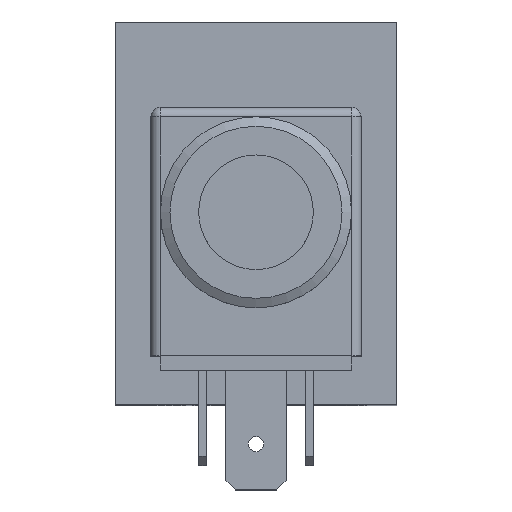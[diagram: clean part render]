
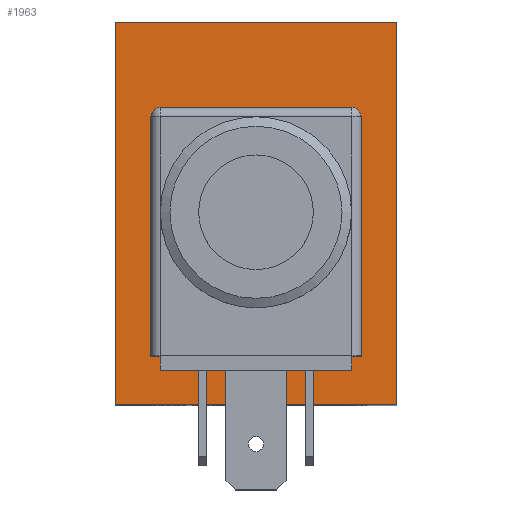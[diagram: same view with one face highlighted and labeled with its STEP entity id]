
A CAD part, top view. The second image highlights one B-rep face of the part: STEP entity #1963.
In plain terms, the highlighted planar face has unit normal (0, 0, 1).
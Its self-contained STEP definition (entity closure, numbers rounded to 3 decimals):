
#71=LINE('',#3049,#226);
#76=LINE('',#3062,#231);
#80=LINE('',#3074,#235);
#84=LINE('',#3086,#239);
#86=LINE('',#3096,#241);
#91=LINE('',#3105,#246);
#95=LINE('',#3113,#250);
#96=LINE('',#3115,#251);
#226=VECTOR('',#2502,15.);
#231=VECTOR('',#2515,15.);
#235=VECTOR('',#2527,15.);
#239=VECTOR('',#2539,15.);
#241=VECTOR('',#2551,40.);
#246=VECTOR('',#2558,29.5);
#250=VECTOR('',#2566,29.5);
#251=VECTOR('',#2569,40.);
#435=FACE_BOUND('',#698,.T.);
#436=FACE_BOUND('',#699,.T.);
#698=EDGE_LOOP('',(#1506,#1507,#1508,#1509,#1510,#1511,#1512,#1513));
#699=EDGE_LOOP('',(#1514,#1515,#1516,#1517));
#823=CIRCLE('',#2137,3.5);
#825=CIRCLE('',#2141,3.5);
#827=CIRCLE('',#2145,3.5);
#829=CIRCLE('',#2149,3.5);
#933=VERTEX_POINT('',#3046);
#934=VERTEX_POINT('',#3048);
#936=VERTEX_POINT('',#3054);
#938=VERTEX_POINT('',#3060);
#940=VERTEX_POINT('',#3066);
#942=VERTEX_POINT('',#3072);
#944=VERTEX_POINT('',#3078);
#946=VERTEX_POINT('',#3084);
#947=VERTEX_POINT('',#3092);
#949=VERTEX_POINT('',#3095);
#951=VERTEX_POINT('',#3101);
#954=VERTEX_POINT('',#3111);
#1124=EDGE_CURVE('',#934,#933,#71,.T.);
#1128=EDGE_CURVE('',#933,#936,#823,.T.);
#1131=EDGE_CURVE('',#936,#938,#76,.T.);
#1134=EDGE_CURVE('',#938,#940,#825,.T.);
#1137=EDGE_CURVE('',#940,#942,#80,.T.);
#1140=EDGE_CURVE('',#942,#944,#827,.T.);
#1143=EDGE_CURVE('',#944,#946,#84,.T.);
#1145=EDGE_CURVE('',#946,#934,#829,.T.);
#1147=EDGE_CURVE('',#949,#947,#86,.T.);
#1152=EDGE_CURVE('',#951,#949,#91,.T.);
#1156=EDGE_CURVE('',#947,#954,#95,.T.);
#1157=EDGE_CURVE('',#954,#951,#96,.T.);
#1506=ORIENTED_EDGE('',*,*,#1124,.T.);
#1507=ORIENTED_EDGE('',*,*,#1128,.T.);
#1508=ORIENTED_EDGE('',*,*,#1131,.T.);
#1509=ORIENTED_EDGE('',*,*,#1134,.T.);
#1510=ORIENTED_EDGE('',*,*,#1137,.T.);
#1511=ORIENTED_EDGE('',*,*,#1140,.T.);
#1512=ORIENTED_EDGE('',*,*,#1143,.T.);
#1513=ORIENTED_EDGE('',*,*,#1145,.T.);
#1514=ORIENTED_EDGE('',*,*,#1157,.T.);
#1515=ORIENTED_EDGE('',*,*,#1152,.T.);
#1516=ORIENTED_EDGE('',*,*,#1147,.T.);
#1517=ORIENTED_EDGE('',*,*,#1156,.T.);
#1780=PLANE('',#2155);
#1963=ADVANCED_FACE('',(#435,#436),#1780,.T.);
#2137=AXIS2_PLACEMENT_3D('',#3056,#2509,#2510);
#2141=AXIS2_PLACEMENT_3D('',#3068,#2521,#2522);
#2145=AXIS2_PLACEMENT_3D('',#3080,#2533,#2534);
#2149=AXIS2_PLACEMENT_3D('',#3089,#2544,#2545);
#2155=AXIS2_PLACEMENT_3D('',#3114,#2567,#2568);
#2502=DIRECTION('',(1.,0.,0.));
#2509=DIRECTION('center_axis',(0.,0.,-1.));
#2510=DIRECTION('ref_axis',(-1.,0.,0.));
#2515=DIRECTION('',(0.,-1.,0.));
#2521=DIRECTION('center_axis',(0.,0.,-1.));
#2522=DIRECTION('ref_axis',(0.,1.,0.));
#2527=DIRECTION('',(-1.,0.,0.));
#2533=DIRECTION('center_axis',(0.,0.,-1.));
#2534=DIRECTION('ref_axis',(1.,0.,0.));
#2539=DIRECTION('',(0.,1.,0.));
#2544=DIRECTION('center_axis',(0.,0.,-1.));
#2545=DIRECTION('ref_axis',(0.,-1.,0.));
#2551=DIRECTION('',(0.,-1.,0.));
#2558=DIRECTION('',(-1.,0.,0.));
#2566=DIRECTION('',(1.,0.,0.));
#2567=DIRECTION('center_axis',(0.,0.,1.));
#2568=DIRECTION('ref_axis',(1.,0.,0.));
#2569=DIRECTION('',(0.,1.,0.));
#3046=CARTESIAN_POINT('',(7.5,11.,50.));
#3048=CARTESIAN_POINT('',(-7.5,11.,50.));
#3049=CARTESIAN_POINT('',(-3.75,11.,50.));
#3054=CARTESIAN_POINT('',(11.,7.5,50.));
#3056=CARTESIAN_POINT('Origin',(7.5,7.5,50.));
#3060=CARTESIAN_POINT('',(11.,-7.5,50.));
#3062=CARTESIAN_POINT('',(11.,-6.25,50.));
#3066=CARTESIAN_POINT('',(7.5,-11.,50.));
#3068=CARTESIAN_POINT('Origin',(7.5,-7.5,50.));
#3072=CARTESIAN_POINT('',(-7.5,-11.,50.));
#3074=CARTESIAN_POINT('',(3.75,-11.,50.));
#3078=CARTESIAN_POINT('',(-11.,-7.5,50.));
#3080=CARTESIAN_POINT('Origin',(-7.5,-7.5,50.));
#3084=CARTESIAN_POINT('',(-11.,7.5,50.));
#3086=CARTESIAN_POINT('',(-11.,-13.75,50.));
#3089=CARTESIAN_POINT('Origin',(-7.5,7.5,50.));
#3092=CARTESIAN_POINT('',(-14.75,-20.,50.));
#3095=CARTESIAN_POINT('',(-14.75,20.,50.));
#3096=CARTESIAN_POINT('',(-14.75,-20.,50.));
#3101=CARTESIAN_POINT('',(14.75,20.,50.));
#3105=CARTESIAN_POINT('',(0.,20.,50.));
#3111=CARTESIAN_POINT('',(14.75,-20.,50.));
#3113=CARTESIAN_POINT('',(0.,-20.,50.));
#3114=CARTESIAN_POINT('Origin',(0.,-20.,50.));
#3115=CARTESIAN_POINT('',(14.75,-20.,50.));
